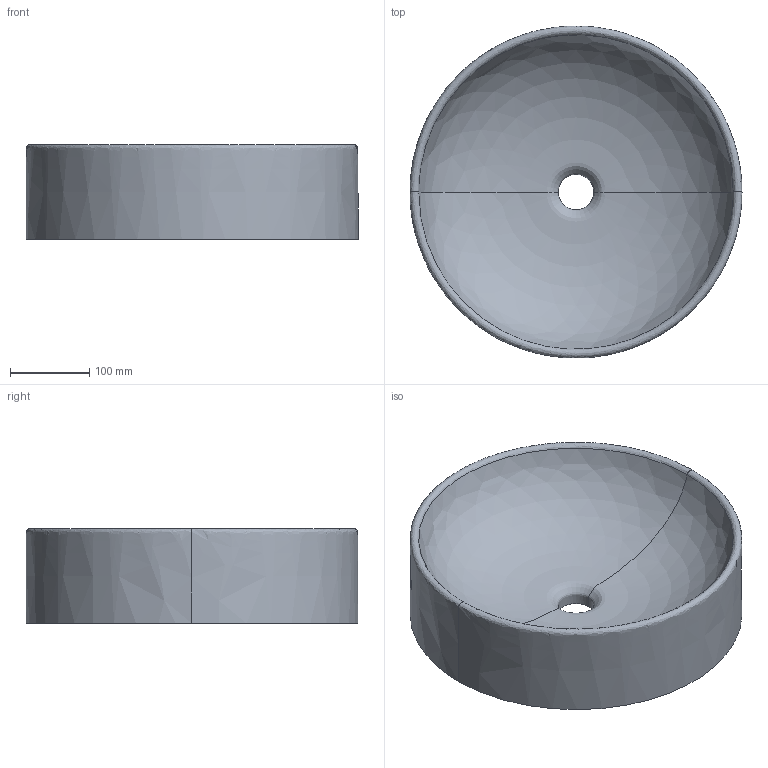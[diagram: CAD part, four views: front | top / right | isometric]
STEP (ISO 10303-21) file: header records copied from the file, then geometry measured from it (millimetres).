
FILE_DESCRIPTION(/* description */ (''),/* implementation_level */ '2;1');
FILE_NAME(/* name */ 'MODD42~1',/* time_stamp */ '2023-10-05T17:09:30+02:00',/* author */ (''),/* organization */ (''),/* preprocessor_version */ 'ST-DEVELOPER v16.5',/* originating_system */ '',/* authorisation */ '');
FILE_SCHEMA (('CONFIG_CONTROL_DESIGN'));
Length unit declared in the file: millimetre
Products named in the file (1): Document
Bounding box: 420 x 419.59 x 120 mm (x, y, z)
Volume: 8336694.1 mm3; surface area: 475787.7 mm2
Topology: 1 solids, 1 shells, 6 faces, 16 edges, 11 vertices
Faces by surface type: bspline 6
Entity records: 479 total; most frequent: CARTESIAN_POINT 318, ORIENTED_EDGE 24, EDGE_CURVE 12, ORGANIZATION 7, PERSON_AND_ORGANIZATION 7, ADVANCED_FACE 6, FACE_OUTER_BOUND 6, EDGE_LOOP 6
